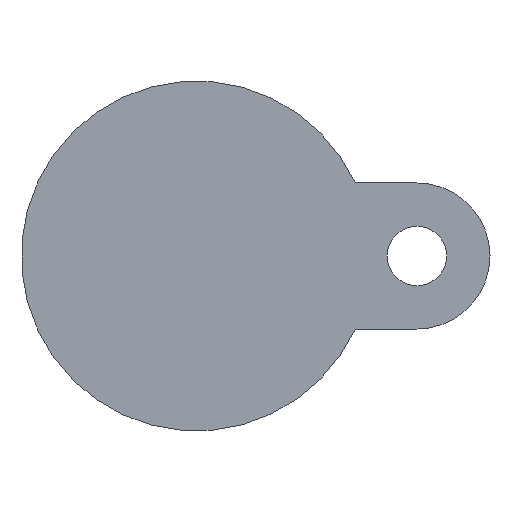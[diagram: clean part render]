
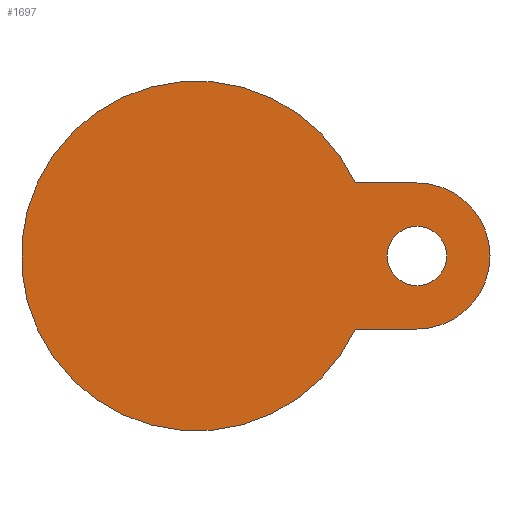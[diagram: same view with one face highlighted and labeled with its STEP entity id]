
A CAD part, front view. The second image highlights one B-rep face of the part: STEP entity #1697.
In plain terms, the highlighted planar face has unit normal (0, -1, 0).
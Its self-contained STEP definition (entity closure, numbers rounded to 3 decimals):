
#4 = EDGE_CURVE ( 'NONE', #118, #1889, #3923, .T. ) ;
#58 = VERTEX_POINT ( 'NONE', #3336 ) ;
#78 = CIRCLE ( 'NONE', #2614, 8.75 ) ;
#118 = VERTEX_POINT ( 'NONE', #4419 ) ;
#119 = DIRECTION ( 'NONE',  ( 0., 1., 0. ) ) ;
#206 = ORIENTED_EDGE ( 'NONE', *, *, #1500, .F. ) ;
#444 = EDGE_CURVE ( 'NONE', #58, #1932, #78, .T. ) ;
#450 = DIRECTION ( 'NONE',  ( 0., 1., 0. ) ) ;
#475 = CIRCLE ( 'NONE', #1925, 51.5 ) ;
#558 = DIRECTION ( 'NONE',  ( 1., 0., 0. ) ) ;
#674 = DIRECTION ( 'NONE',  ( 1., 0., 0. ) ) ;
#718 = ORIENTED_EDGE ( 'NONE', *, *, #444, .T. ) ;
#767 = DIRECTION ( 'NONE',  ( 1., 0., 0. ) ) ;
#785 = CIRCLE ( 'NONE', #3316, 8.75 ) ;
#864 = VERTEX_POINT ( 'NONE', #1487 ) ;
#876 = CARTESIAN_POINT ( 'NONE',  ( 51.5, -28., 0. ) ) ;
#1020 = AXIS2_PLACEMENT_3D ( 'NONE', #876, #3684, #558 ) ;
#1094 = CIRCLE ( 'NONE', #3618, 21.5 ) ;
#1263 = CARTESIAN_POINT ( 'NONE',  ( 65., -28., 0. ) ) ;
#1276 = EDGE_CURVE ( 'NONE', #1932, #58, #785, .T. ) ;
#1376 = VECTOR ( 'NONE', #3893, 1000. ) ;
#1487 = CARTESIAN_POINT ( 'NONE',  ( 46.797, -28., 21.5 ) ) ;
#1500 = EDGE_CURVE ( 'NONE', #864, #1935, #3871, .T. ) ;
#1604 = EDGE_CURVE ( 'NONE', #1935, #118, #1094, .T. ) ;
#1626 = PLANE ( 'NONE',  #1020 ) ;
#1632 = EDGE_LOOP ( 'NONE', ( #718, #2616 ) ) ;
#1697 = ADVANCED_FACE ( 'NONE', ( #4356, #2983 ), #1626, .T. ) ;
#1745 = VECTOR ( 'NONE', #2529, 1000. ) ;
#1794 = CARTESIAN_POINT ( 'NONE',  ( 41.5, -28., 21.5 ) ) ;
#1889 = VERTEX_POINT ( 'NONE', #3765 ) ;
#1925 = AXIS2_PLACEMENT_3D ( 'NONE', #2693, #2400, #674 ) ;
#1932 = VERTEX_POINT ( 'NONE', #2954 ) ;
#1935 = VERTEX_POINT ( 'NONE', #2662 ) ;
#2400 = DIRECTION ( 'NONE',  ( 0., -1., 0. ) ) ;
#2529 = DIRECTION ( 'NONE',  ( -1., 0., 0. ) ) ;
#2614 = AXIS2_PLACEMENT_3D ( 'NONE', #3219, #119, #2884 ) ;
#2616 = ORIENTED_EDGE ( 'NONE', *, *, #1276, .T. ) ;
#2653 = DIRECTION ( 'NONE',  ( 0., 1., 0. ) ) ;
#2662 = CARTESIAN_POINT ( 'NONE',  ( 65., -28., 21.5 ) ) ;
#2693 = CARTESIAN_POINT ( 'NONE',  ( 0., -28., 0. ) ) ;
#2884 = DIRECTION ( 'NONE',  ( -1., 0., 0. ) ) ;
#2954 = CARTESIAN_POINT ( 'NONE',  ( 73.75, -28., 0. ) ) ;
#2983 = FACE_OUTER_BOUND ( 'NONE', #3117, .T. ) ;
#3117 = EDGE_LOOP ( 'NONE', ( #4390, #4065, #3604, #206 ) ) ;
#3219 = CARTESIAN_POINT ( 'NONE',  ( 65., -28., 0. ) ) ;
#3256 = CARTESIAN_POINT ( 'NONE',  ( 65., -28., 0. ) ) ;
#3316 = AXIS2_PLACEMENT_3D ( 'NONE', #1263, #2653, #4033 ) ;
#3336 = CARTESIAN_POINT ( 'NONE',  ( 56.25, -28., 0. ) ) ;
#3604 = ORIENTED_EDGE ( 'NONE', *, *, #1604, .F. ) ;
#3618 = AXIS2_PLACEMENT_3D ( 'NONE', #3256, #450, #767 ) ;
#3684 = DIRECTION ( 'NONE',  ( 0., -1., 0. ) ) ;
#3765 = CARTESIAN_POINT ( 'NONE',  ( 46.797, -28., -21.5 ) ) ;
#3852 = EDGE_CURVE ( 'NONE', #864, #1889, #475, .T. ) ;
#3871 = LINE ( 'NONE', #1794, #1376 ) ;
#3893 = DIRECTION ( 'NONE',  ( 1., 0., 0. ) ) ;
#3923 = LINE ( 'NONE', #4280, #1745 ) ;
#4033 = DIRECTION ( 'NONE',  ( -1., 0., 0. ) ) ;
#4065 = ORIENTED_EDGE ( 'NONE', *, *, #4, .F. ) ;
#4280 = CARTESIAN_POINT ( 'NONE',  ( 41.5, -28., -21.5 ) ) ;
#4356 = FACE_BOUND ( 'NONE', #1632, .T. ) ;
#4390 = ORIENTED_EDGE ( 'NONE', *, *, #3852, .T. ) ;
#4419 = CARTESIAN_POINT ( 'NONE',  ( 65., -28., -21.5 ) ) ;
